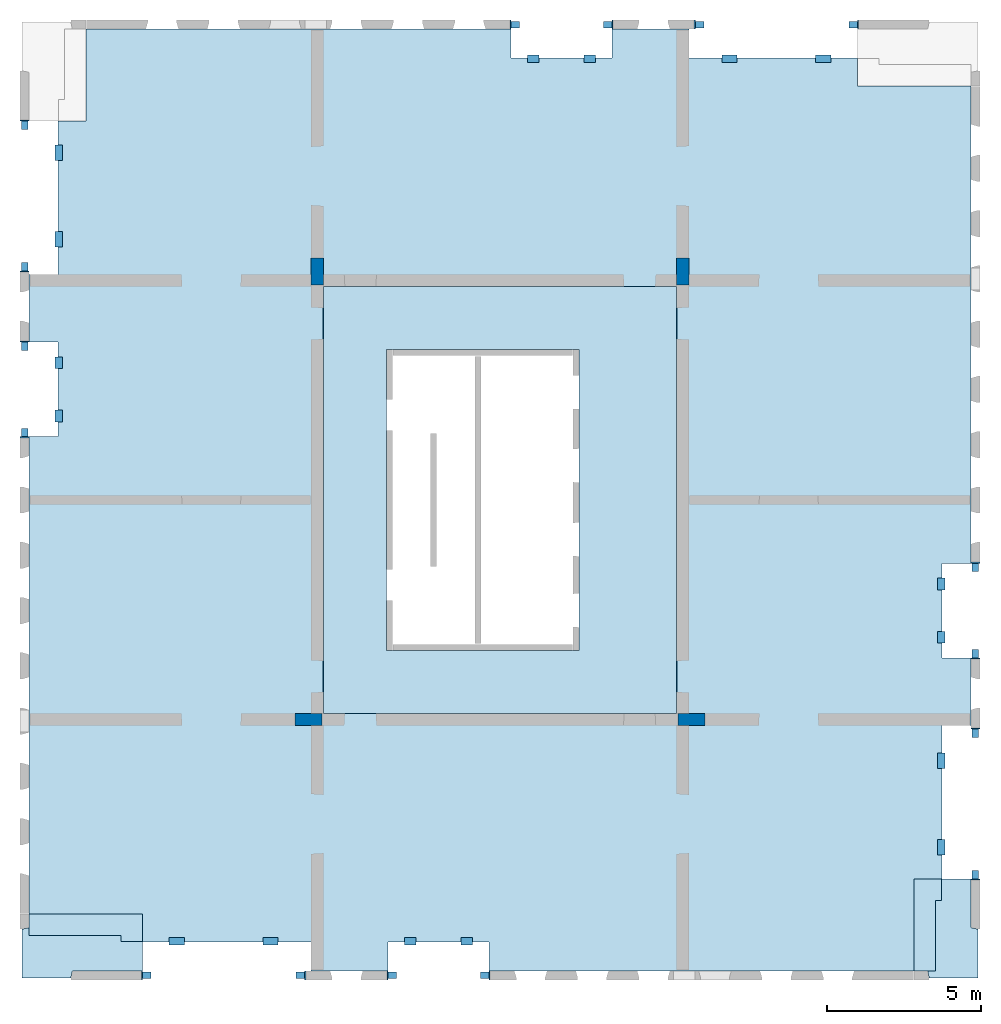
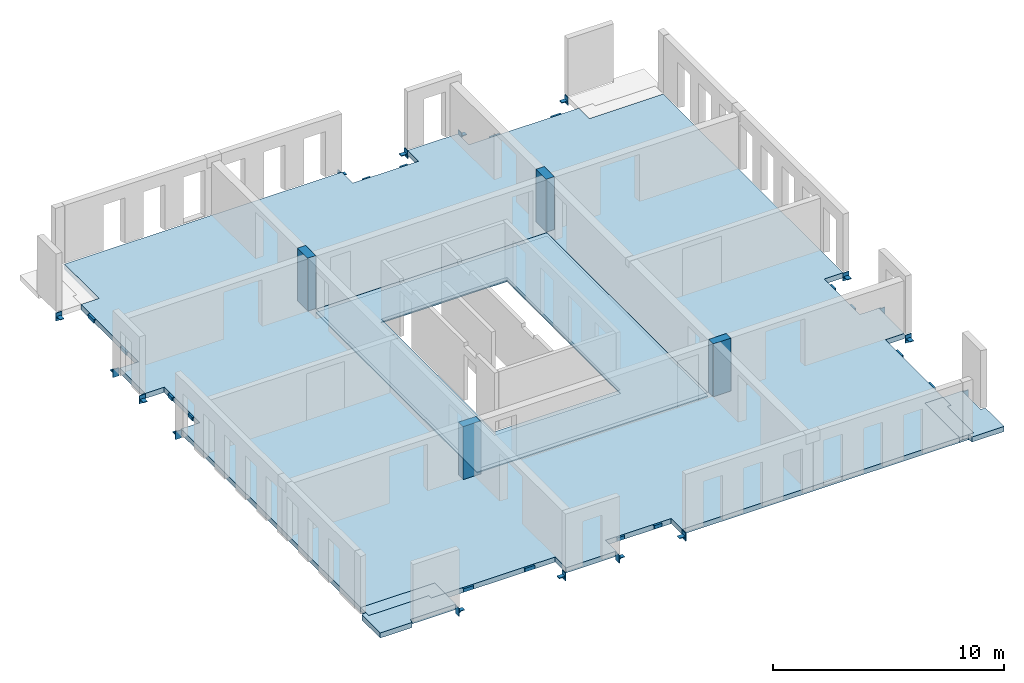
# One storey, part 1 of 4: 32 beams, 7 slabs, 4 columns, 3 openings.
"""IFC2X3 building model written with IfcOpenShell, lengths in millimetres."""

from ifc_helpers import new_model, entity, si_unit, converted_unit, derived_unit, direction, frame, frame_2d, origin, origin_2d_with_axis, place, context, subcontext, project, spatial, polyline, rectangle, outline, extrude, source, transform, mapped, material, layer, layer_set, layer_usage, type_object, type_shapes, element, save


model = new_model("IFC2X3")

# Units and contexts
model_context = context("Model", 3, precision=0.01, world=origin(), true_north=direction((6.12303176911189e-17, 1.0)))
body_context = subcontext(model_context, "Body", "Model", "MODEL_VIEW")
ifc_project = project(units=[si_unit("LENGTHUNIT", "METRE", prefix="MILLI"), si_unit("AREAUNIT", "SQUARE_METRE"), si_unit("VOLUMEUNIT", "CUBIC_METRE"), converted_unit("PLANEANGLEUNIT", "DEGREE", entity("IfcRatioMeasure", 0.0174532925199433), si_unit("PLANEANGLEUNIT", "RADIAN"), dimensions=[0, 0, 0, 0, 0, 0, 0]), si_unit("MASSUNIT", "GRAM", prefix="KILO"), derived_unit("MASSDENSITYUNIT", [(si_unit("MASSUNIT", "GRAM", prefix="KILO"), 1), (si_unit("LENGTHUNIT", "METRE"), -3)]), si_unit("TIMEUNIT", "SECOND"), si_unit("FREQUENCYUNIT", "HERTZ"), si_unit("THERMODYNAMICTEMPERATUREUNIT", "DEGREE_CELSIUS"), derived_unit("THERMALTRANSMITTANCEUNIT", [(si_unit("MASSUNIT", "GRAM", prefix="KILO"), 1), (si_unit("THERMODYNAMICTEMPERATUREUNIT", "KELVIN"), -1), (si_unit("TIMEUNIT", "SECOND"), -3)]), derived_unit("VOLUMETRICFLOWRATEUNIT", [(si_unit("LENGTHUNIT", "METRE"), 3), (si_unit("TIMEUNIT", "SECOND"), -1)]), si_unit("ELECTRICCURRENTUNIT", "AMPERE"), si_unit("ELECTRICVOLTAGEUNIT", "VOLT"), si_unit("POWERUNIT", "WATT"), si_unit("FORCEUNIT", "NEWTON", prefix="KILO"), si_unit("ILLUMINANCEUNIT", "LUX"), si_unit("LUMINOUSFLUXUNIT", "LUMEN"), si_unit("LUMINOUSINTENSITYUNIT", "CANDELA"), derived_unit("USERDEFINED", [(si_unit("MASSUNIT", "GRAM", prefix="KILO"), -1), (si_unit("LENGTHUNIT", "METRE"), -2), (si_unit("TIMEUNIT", "SECOND"), 3), (si_unit("LUMINOUSFLUXUNIT", "LUMEN"), 1)]), derived_unit("LINEARVELOCITYUNIT", [(si_unit("LENGTHUNIT", "METRE"), 1), (si_unit("TIMEUNIT", "SECOND"), -1)]), si_unit("PRESSUREUNIT", "PASCAL"), derived_unit("USERDEFINED", [(si_unit("LENGTHUNIT", "METRE"), -2), (si_unit("MASSUNIT", "GRAM", prefix="KILO"), 1), (si_unit("TIMEUNIT", "SECOND"), -2)])], contexts=[model_context])

# Site, building, storey
site_placement = place(None, origin())
site = spatial("IfcSite", under=ifc_project, at=site_placement, Name="Default", CompositionType="ELEMENT")
building_placement = place(site_placement, origin())
building = spatial("IfcBuilding", under=site, at=building_placement, Name="niet gebruiken", CompositionType="ELEMENT")
storey_placement = place(building_placement, frame((0.0, 0.0, 76140.0)))
storey = spatial("IfcBuildingStorey", under=building, at=storey_placement, Name="24 vierentwintigste verdieping", CompositionType="ELEMENT", Elevation=76140.0000000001)

# Columns
ifc_material_1 = material(Name="NLRS_f2_beton ihwg")
column_type_1 = type_object("IfcColumnType", Name="400x880", PredefinedType="COLUMN", material=ifc_material_1)
shared_shape_1 = source(origin(), body_context, "Body", "SweptSolid", [
    extrude(rectangle(XDim=879.999999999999, YDim=399.999999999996, at=origin_2d_with_axis()), frame((135800.0, 24940.0, 76050.0), z_axis=(0.0, 0.0, 1.0), x_axis=(0.0, -1.0, 0.0)), (0.0, 0.0, 1.0), 2789.99999999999),
])
type_shapes(column_type_1, [shared_shape_1])
column_1_placement = place(storey_placement, frame((0.0, 0.0, -76140.0)))
element("IfcColumn", 1, at=column_1_placement, inside=storey, type_object=column_type_1, material=ifc_material_1, Name="NLRS_28.11_SCO_TLB_beton kolom ihwg_gen:400x880", ObjectType="400x880", context=body_context, shape_type="MappedRepresentation", body=[
    mapped(shared_shape_1, transform((0.0, 0.0, 0.0), scale=1.0)),
])
column_type_2 = type_object("IfcColumnType", Name="400x880", PredefinedType="COLUMN", material=ifc_material_1)
shared_shape_2 = source(origin(), body_context, "Body", "SweptSolid", [
    extrude(rectangle(XDim=879.999999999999, YDim=399.999999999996, at=origin_2d_with_axis()), frame((147700.0, 24940.0, 76050.0), z_axis=(0.0, 0.0, 1.0), x_axis=(0.0, -1.0, 0.0)), (0.0, 0.0, 1.0), 2789.99999999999),
])
type_shapes(column_type_2, [shared_shape_2])
column_2_placement = place(storey_placement, frame((0.0, 0.0, -76140.0)))
element("IfcColumn", 2, at=column_2_placement, inside=storey, type_object=column_type_2, material=ifc_material_1, Name="NLRS_28.11_SCO_TLB_beton kolom ihwg_gen:400x880", ObjectType="400x880", context=body_context, shape_type="MappedRepresentation", body=[
    mapped(shared_shape_2, transform((0.0, 0.0, 0.0), scale=1.0)),
])
column_type_3 = type_object("IfcColumnType", Name="400x880", PredefinedType="COLUMN", material=ifc_material_1)
shared_shape_3 = source(origin(), body_context, "Body", "SweptSolid", [
    extrude(rectangle(XDim=400.000000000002, YDim=880.000000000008, at=origin_2d_with_axis()), frame((135510.003540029, 10350.0, 76050.0), z_axis=(0.0, 0.0, 1.0), x_axis=(0.0, -1.0, 0.0)), (0.0, 0.0, 1.0), 2789.99999999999),
])
type_shapes(column_type_3, [shared_shape_3])
column_3_placement = place(storey_placement, frame((0.0, 0.0, -76140.0)))
element("IfcColumn", 3, at=column_3_placement, inside=storey, type_object=column_type_3, material=ifc_material_1, Name="NLRS_28.11_SCO_TLB_beton kolom ihwg_gen:400x880", ObjectType="400x880", context=body_context, shape_type="MappedRepresentation", body=[
    mapped(shared_shape_3, transform((0.0, 0.0, 0.0), scale=1.0)),
])
column_type_4 = type_object("IfcColumnType", Name="400x880", PredefinedType="COLUMN", material=ifc_material_1)
shared_shape_4 = source(origin(), body_context, "Body", "SweptSolid", [
    extrude(rectangle(XDim=400.000000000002, YDim=880.000000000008, at=origin_2d_with_axis()), frame((147990.0, 10350.0, 76050.0), z_axis=(0.0, 0.0, 1.0), x_axis=(0.0, -1.0, 0.0)), (0.0, 0.0, 1.0), 2789.99999999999),
])
type_shapes(column_type_4, [shared_shape_4])
column_4_placement = place(storey_placement, frame((0.0, 0.0, -76140.0)))
element("IfcColumn", 4, at=column_4_placement, inside=storey, type_object=column_type_4, material=ifc_material_1, Name="NLRS_28.11_SCO_TLB_beton kolom ihwg_gen:400x880", ObjectType="400x880", context=body_context, shape_type="MappedRepresentation", body=[
    mapped(shared_shape_4, transform((0.0, 0.0, 0.0), scale=1.0)),
])

# Beams
ifc_material_2 = material(Name="NLRS_h2_staal")
beam_type_1 = type_object("IfcBeamType", Name="NLRS_28.11_SF_WPB_stalen schoen 4_gen", PredefinedType="BEAM", material=ifc_material_2)
shared_shape_5 = source(origin(), body_context, "Body", "SweptSolid", [
    extrude(outline(polyline([(-69.4999999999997, -23.0), (8.49999999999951, -23.0), (30.5, -1.0), (30.5000000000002, 47.0), (-69.4999999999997, -23.0)])), frame((-105.0, -109.499999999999, -58.0), z_axis=(1.0, 0.0, 0.0), x_axis=(0.0, -1.0, 0.0)), (0.0, 0.0, 1.0), 35.0),
    extrude(outline(polyline([(-69.4999999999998, -23.0), (8.49999999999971, -23.0), (30.5, -1.0), (30.5000000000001, 47.0), (-69.4999999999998, -23.0)])), frame((70.0, -109.499999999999, -58.0), z_axis=(1.0, 0.0, 0.0), x_axis=(0.0, -1.0, 0.0)), (0.0, 0.0, 1.0), 35.0),
    extrude(rectangle(XDim=300.0, YDim=34.9999999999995, at=origin_2d_with_axis()), frame((0.0, -157.5, -230.0), z_axis=(0.0, 0.0, 1.0), x_axis=(-1.0, 0.0, 0.0)), (0.0, 0.0, 1.0), 420.0),
    extrude(rectangle(XDim=210.000000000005, YDim=274.999999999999, at=origin_2d_with_axis()), frame((0.0, -2.4999999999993, -35.0), z_axis=(0.0, 0.0, 1.0), x_axis=(-1.0, 0.0, 0.0)), (0.0, 0.0, 1.0), 35.0),
])
type_shapes(beam_type_1, [shared_shape_5])
beam_1_placement = place(storey_placement, frame((157230.0, 12500.0, -310.0)))
element("IfcBeam", 5, at=beam_1_placement, inside=storey, type_object=beam_type_1, material=ifc_material_2, Name="NLRS_28.11_SF_WPB_stalen schoen 4_gen:NLRS_28.11_SF_WPB_stalen schoen 4_gen", ObjectType="NLRS_28.11_SF_WPB_stalen schoen 4_gen", context=body_context, shape_type="MappedRepresentation", body=[
    mapped(shared_shape_5, transform((0.0, 0.0, 0.0), scale=1.0)),
])
for number, where, z_axis, x_axis, name in (
    (6, (157230.0, 15300.0, -310.0), (0.0, 0.0, 1.0), (-1.0, 0.0, 0.0), "NLRS_28.11_SF_WPB_stalen schoen 4_gen:NLRS_28.11_SF_WPB_stalen schoen 4_gen"),
    (7, (126270.0, 22500.0, -310.0), (0.0, 0.0, 1.0), (-1.0, 0.0, 0.0), "NLRS_28.11_SF_WPB_stalen schoen 4_gen:NLRS_28.11_SF_WPB_stalen schoen 4_gen"),
):
    element("IfcBeam", number, at=place(storey_placement, frame(where, z_axis=z_axis, x_axis=x_axis)), inside=storey, type_object=beam_type_1, material=ifc_material_2, Name=name, ObjectType="NLRS_28.11_SF_WPB_stalen schoen 4_gen", context=body_context, shape_type="MappedRepresentation", body=[
        mapped(shared_shape_5, transform((0.0, 0.0, 0.0), scale=1.0)),
    ])
beam_2_placement = place(storey_placement, frame((126270.0, 19700.0, -310.0)))
element("IfcBeam", 8, at=beam_2_placement, inside=storey, type_object=beam_type_1, material=ifc_material_2, Name="NLRS_28.11_SF_WPB_stalen schoen 4_gen:NLRS_28.11_SF_WPB_stalen schoen 4_gen", ObjectType="NLRS_28.11_SF_WPB_stalen schoen 4_gen", context=body_context, shape_type="MappedRepresentation", body=[
    mapped(shared_shape_5, transform((0.0, 0.0, 0.0), scale=1.0)),
])
for number, where, z_axis, x_axis, name in (
    (9, (138250.0, 2020.0, -310.0), (0.0, 0.0, 1.0), (0.0, -1.0, 0.0), "NLRS_28.11_SF_WPB_stalen schoen 4_gen:NLRS_28.11_SF_WPB_stalen schoen 4_gen"),
    (10, (141250.0, 2020.0, -310.0), (0.0, 0.0, 1.0), (0.0, 1.0, 0.0), "NLRS_28.11_SF_WPB_stalen schoen 4_gen:NLRS_28.11_SF_WPB_stalen schoen 4_gen"),
    (11, (145250.0, 32980.0, -310.0), (0.0, 0.0, 1.0), (0.0, 1.0, 0.0), "NLRS_28.11_SF_WPB_stalen schoen 4_gen:NLRS_28.11_SF_WPB_stalen schoen 4_gen"),
    (12, (142250.0, 32980.0, -310.0), (0.0, 0.0, 1.0), (0.0, -1.0, 0.0), "NLRS_28.11_SF_WPB_stalen schoen 4_gen:NLRS_28.11_SF_WPB_stalen schoen 4_gen"),
):
    element("IfcBeam", number, at=place(storey_placement, frame(where, z_axis=z_axis, x_axis=x_axis)), inside=storey, type_object=beam_type_1, material=ifc_material_2, Name=name, ObjectType="NLRS_28.11_SF_WPB_stalen schoen 4_gen", context=body_context, shape_type="MappedRepresentation", body=[
        mapped(shared_shape_5, transform((0.0, 0.0, 0.0), scale=1.0)),
    ])
beam_type_2 = type_object("IfcBeamType", Name="NLRS_28.11_SF_WPB_stalen schoen 3_gen", PredefinedType="BEAM", material=ifc_material_2)
shared_shape_6 = source(origin(), body_context, "Body", "SweptSolid", [
    extrude(outline(polyline([(-69.4999999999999, -23.0), (8.49999999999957, -23.0), (30.5000000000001, -1.0), (30.5000000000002, 47.0), (-69.4999999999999, -23.0)])), frame((-105.0, -109.499999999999, -63.0), z_axis=(1.0, 0.0, 0.0), x_axis=(0.0, -1.0, 0.0)), (0.0, 0.0, 1.0), 40.0),
    extrude(outline(polyline([(-69.4999999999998, -23.0), (8.49999999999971, -23.0), (30.5, -1.0), (30.5000000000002, 47.0), (-69.4999999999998, -23.0)])), frame((65.0, -109.499999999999, -63.0), z_axis=(1.0, 0.0, 0.0), x_axis=(0.0, -1.0, 0.0)), (0.0, 0.0, 1.0), 40.0),
    extrude(rectangle(XDim=300.0, YDim=39.9999999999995, at=origin_2d_with_axis()), frame((0.0, -160.0, -230.0), z_axis=(0.0, 0.0, 1.0), x_axis=(-1.0, 0.0, 0.0)), (0.0, 0.0, 1.0), 420.0),
    extrude(rectangle(XDim=210.000000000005, YDim=274.999999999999, at=origin_2d_with_axis()), frame((0.0, -2.49999999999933, -40.0), z_axis=(0.0, 0.0, 1.0), x_axis=(-1.0, 0.0, 0.0)), (0.0, 0.0, 1.0), 39.9999999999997),
])
type_shapes(beam_type_2, [shared_shape_6])
beam_3_placement = place(storey_placement, frame((157230.0, 9900.0, -310.0), z_axis=(0.0, 0.0, 1.0), x_axis=(-1.0, 0.0, 0.0)))
element("IfcBeam", 13, at=beam_3_placement, inside=storey, type_object=beam_type_2, material=ifc_material_2, Name="NLRS_28.11_SF_WPB_stalen schoen 3_gen:NLRS_28.11_SF_WPB_stalen schoen 3_gen", ObjectType="NLRS_28.11_SF_WPB_stalen schoen 3_gen", context=body_context, shape_type="MappedRepresentation", body=[
    mapped(shared_shape_6, transform((0.0, 0.0, 0.0), scale=1.0)),
])
for number, where, name in (
    (14, (157230.0, 5300.0, -310.0), "NLRS_28.11_SF_WPB_stalen schoen 3_gen:NLRS_28.11_SF_WPB_stalen schoen 3_gen"),
    (15, (126270.0, 25100.0, -310.0), "NLRS_28.11_SF_WPB_stalen schoen 3_gen:NLRS_28.11_SF_WPB_stalen schoen 3_gen"),
):
    element("IfcBeam", number, at=place(storey_placement, frame(where)), inside=storey, type_object=beam_type_2, material=ifc_material_2, Name=name, ObjectType="NLRS_28.11_SF_WPB_stalen schoen 3_gen", context=body_context, shape_type="MappedRepresentation", body=[
        mapped(shared_shape_6, transform((0.0, 0.0, 0.0), scale=1.0)),
    ])
for number, where, z_axis, x_axis, name in (
    (16, (126270.0, 29700.0, -310.0), (0.0, 0.0, 1.0), (-1.0, 0.0, 0.0), "NLRS_28.11_SF_WPB_stalen schoen 3_gen:NLRS_28.11_SF_WPB_stalen schoen 3_gen"),
    (17, (135250.0, 2020.0, -310.0), (0.0, 0.0, 1.0), (0.0, 1.0, 0.0), "NLRS_28.11_SF_WPB_stalen schoen 3_gen:NLRS_28.11_SF_WPB_stalen schoen 3_gen"),
    (18, (130250.0, 2020.0, -310.0), (0.0, 0.0, 1.0), (0.0, -1.0, 0.0), "NLRS_28.11_SF_WPB_stalen schoen 3_gen:NLRS_28.11_SF_WPB_stalen schoen 3_gen"),
    (19, (148250.0, 32980.0, -310.0), (0.0, 0.0, 1.0), (0.0, -1.0, 0.0), "NLRS_28.11_SF_WPB_stalen schoen 3_gen:NLRS_28.11_SF_WPB_stalen schoen 3_gen"),
    (20, (153250.0, 32980.0, -310.0), (0.0, 0.0, 1.0), (0.0, 1.0, 0.0), "NLRS_28.11_SF_WPB_stalen schoen 3_gen:NLRS_28.11_SF_WPB_stalen schoen 3_gen"),
):
    element("IfcBeam", number, at=place(storey_placement, frame(where, z_axis=z_axis, x_axis=x_axis)), inside=storey, type_object=beam_type_2, material=ifc_material_2, Name=name, ObjectType="NLRS_28.11_SF_WPB_stalen schoen 3_gen", context=body_context, shape_type="MappedRepresentation", body=[
        mapped(shared_shape_6, transform((0.0, 0.0, 0.0), scale=1.0)),
    ])
beam_type_3 = type_object("IfcBeamType", Name="NLRS_28.11_SF_WPB_stalen handje 7 lang 375_gen:NLRS_28.11_SF_WPB_stalen handje 7_gen", PredefinedType="BEAM")
beam_4_placement = place(storey_placement, frame((156235.125015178, 9255.24886461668, -93.0), z_axis=(0.0, 0.0, 1.0), x_axis=(0.0, -1.0, 0.0)))
element("IfcBeam", 21, at=beam_4_placement, inside=storey, type_object=beam_type_3, material=ifc_material_2, Name="NLRS_28.11_SF_WPB_stalen handje 7 lang 375_gen:NLRS_28.11_SF_WPB_stalen handje 7_gen", ObjectType="NLRS_28.11_SF_WPB_stalen handje 7 lang 375_gen:NLRS_28.11_SF_WPB_stalen handje 7_gen", context=body_context, shape_type="SweptSolid", body=[
    extrude(outline(polyline([(-70.6666666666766, -153.33333333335), (-40.6666666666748, -153.33333333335), (-40.6666666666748, 61.6666666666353), (111.333333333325, 61.6666666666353), (111.333333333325, 91.6666666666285), (-70.6666666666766, 91.6666666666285), (-70.6666666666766, -153.33333333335)])), frame((0.0, -91.6666666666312, -70.6666666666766), z_axis=(1.0, 0.0, 0.0), x_axis=(0.0, 0.0, -1.0)), (0.0, 0.0, 1.0), 500.000000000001),
])
beam_5_placement = place(storey_placement, frame((156235.125015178, 6445.24582437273, -93.0), z_axis=(0.0, 0.0, 1.0), x_axis=(0.0, -1.0, 0.0)))
element("IfcBeam", 22, at=beam_5_placement, inside=storey, type_object=beam_type_3, material=ifc_material_2, Name="NLRS_28.11_SF_WPB_stalen handje 7 lang 375_gen:NLRS_28.11_SF_WPB_stalen handje 7_gen", ObjectType="NLRS_28.11_SF_WPB_stalen handje 7 lang 375_gen:NLRS_28.11_SF_WPB_stalen handje 7_gen", context=body_context, shape_type="SweptSolid", body=[
    extrude(outline(polyline([(-70.6666666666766, -153.33333333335), (-40.6666666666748, -153.33333333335), (-40.6666666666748, 61.6666666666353), (111.333333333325, 61.6666666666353), (111.333333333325, 91.6666666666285), (-70.6666666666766, 91.6666666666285), (-70.6666666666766, -153.33333333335)])), frame((0.0, -91.6666666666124, -70.6666666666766), z_axis=(1.0, 0.0, 0.0), x_axis=(0.0, 0.0, -1.0)), (0.0, 0.0, 1.0), 500.000000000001),
])
beam_6_placement = place(storey_placement, frame((127264.874984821, 25744.7511353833, -93.0), z_axis=(0.0, 0.0, 1.0), x_axis=(0.0, 1.0, 0.0)))
element("IfcBeam", 23, at=beam_6_placement, inside=storey, type_object=beam_type_3, material=ifc_material_2, Name="NLRS_28.11_SF_WPB_stalen handje 7 lang 375_gen:NLRS_28.11_SF_WPB_stalen handje 7_gen", ObjectType="NLRS_28.11_SF_WPB_stalen handje 7 lang 375_gen:NLRS_28.11_SF_WPB_stalen handje 7_gen", context=body_context, shape_type="SweptSolid", body=[
    extrude(outline(polyline([(-70.6666666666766, -153.333333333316), (-40.6666666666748, -153.333333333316), (-40.6666666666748, 61.6666666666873), (111.333333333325, 61.66666666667), (111.333333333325, 91.6666666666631), (-70.6666666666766, 91.6666666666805), (-70.6666666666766, -153.333333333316)])), frame((0.0, -91.6666666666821, -70.6666666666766), z_axis=(1.0, 0.0, 0.0), x_axis=(0.0, 0.0, -1.0)), (0.0, 0.0, 1.0), 500.000000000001),
])
beam_7_placement = place(storey_placement, frame((127264.874984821, 28554.7541756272, -93.0), z_axis=(0.0, 0.0, 1.0), x_axis=(0.0, 1.0, 0.0)))
element("IfcBeam", 24, at=beam_7_placement, inside=storey, type_object=beam_type_3, material=ifc_material_2, Name="NLRS_28.11_SF_WPB_stalen handje 7 lang 375_gen:NLRS_28.11_SF_WPB_stalen handje 7_gen", ObjectType="NLRS_28.11_SF_WPB_stalen handje 7 lang 375_gen:NLRS_28.11_SF_WPB_stalen handje 7_gen", context=body_context, shape_type="SweptSolid", body=[
    extrude(outline(polyline([(-70.6666666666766, -153.333333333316), (-40.6666666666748, -153.333333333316), (-40.6666666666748, 61.6666666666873), (111.333333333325, 61.66666666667), (111.333333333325, 91.6666666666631), (-70.6666666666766, 91.6666666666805), (-70.6666666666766, -153.333333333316)])), frame((0.0, -91.66666666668, -70.6666666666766), z_axis=(1.0, 0.0, 0.0), x_axis=(0.0, 0.0, -1.0)), (0.0, 0.0, 1.0), 500.000000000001),
])
for number, where, z_axis, x_axis, name in (
    (25, (140862.631597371, 3015.23611279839, -93.0), (0.0, 0.0, 1.0), (-1.0, 0.0, 0.0), "NLRS_28.11_SF_WPB_stalen handje 7 lang 375_gen:NLRS_28.11_SF_WPB_stalen handje 7_gen"),
    (26, (139012.628555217, 3015.23611279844, -93.0), (0.0, 0.0, 1.0), (-1.0, 0.0, 0.0), "NLRS_28.11_SF_WPB_stalen handje 7 lang 375_gen:NLRS_28.11_SF_WPB_stalen handje 7_gen"),
):
    element("IfcBeam", number, at=place(storey_placement, frame(where, z_axis=z_axis, x_axis=x_axis)), inside=storey, type_object=beam_type_3, material=ifc_material_2, Name=name, ObjectType="NLRS_28.11_SF_WPB_stalen handje 7 lang 375_gen:NLRS_28.11_SF_WPB_stalen handje 7_gen", context=body_context, shape_type="SweptSolid", body=[
        extrude(outline(polyline([(-70.6666666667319, -153.333333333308), (-40.6666666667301, -153.333333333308), (-40.6666666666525, 61.6666666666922), (111.333333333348, 61.6666666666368), (111.333333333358, 91.6666666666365), (-70.6666666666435, 91.6666666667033), (-70.6666666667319, -153.333333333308)])), frame((0.0, -91.6666666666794, -70.6666666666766), z_axis=(1.0, 0.0, 0.0), x_axis=(0.0, 0.0, -1.0)), (0.0, 0.0, 1.0), 375.000000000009),
    ])
for number, where, z_axis, x_axis, name in (
    (27, (134525.131597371, 3015.23611279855, -93.0), (0.0, 0.0, 1.0), (-1.0, 0.0, 0.0), "NLRS_28.11_SF_WPB_stalen handje 7 lang 375_gen:NLRS_28.11_SF_WPB_stalen handje 7_gen"),
    (28, (131475.128555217, 3015.23611279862, -93.0), (0.0, 0.0, 1.0), (-1.0, 0.0, 0.0), "NLRS_28.11_SF_WPB_stalen handje 7 lang 375_gen:NLRS_28.11_SF_WPB_stalen handje 7_gen"),
):
    element("IfcBeam", number, at=place(storey_placement, frame(where, z_axis=z_axis, x_axis=x_axis)), inside=storey, type_object=beam_type_3, material=ifc_material_2, Name=name, ObjectType="NLRS_28.11_SF_WPB_stalen handje 7 lang 375_gen:NLRS_28.11_SF_WPB_stalen handje 7_gen", context=body_context, shape_type="SweptSolid", body=[
        extrude(outline(polyline([(-70.6666666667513, -153.333333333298), (-40.6666666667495, -153.333333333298), (-40.6666666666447, 61.6666666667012), (111.333333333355, 61.6666666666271), (111.33333333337, 91.6666666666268), (-70.6666666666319, 91.666666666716), (-70.6666666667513, -153.333333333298)])), frame((0.0, -91.6666666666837, -70.6666666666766), z_axis=(1.0, 0.0, 0.0), x_axis=(0.0, 0.0, -1.0)), (0.0, 0.0, 1.0), 500.000000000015),
    ])
for number, where, name in (
    (29, (142637.368402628, 31984.7638872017, -93.0), "NLRS_28.11_SF_WPB_stalen handje 7 lang 375_gen:NLRS_28.11_SF_WPB_stalen handje 7_gen"),
    (30, (144487.371444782, 31984.7638872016, -93.0), "NLRS_28.11_SF_WPB_stalen handje 7 lang 375_gen:NLRS_28.11_SF_WPB_stalen handje 7_gen"),
):
    element("IfcBeam", number, at=place(storey_placement, frame(where)), inside=storey, type_object=beam_type_3, material=ifc_material_2, Name=name, ObjectType="NLRS_28.11_SF_WPB_stalen handje 7 lang 375_gen:NLRS_28.11_SF_WPB_stalen handje 7_gen", context=body_context, shape_type="SweptSolid", body=[
        extrude(outline(polyline([(-70.6666666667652, -153.333333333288), (-40.6666666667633, -153.333333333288), (-40.6666666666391, 61.6666666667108), (111.333333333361, 61.666666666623), (111.333333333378, 91.6666666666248), (-70.6666666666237, 91.6666666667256), (-70.6666666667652, -153.333333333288)])), frame((0.0, -91.6666666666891, -70.6666666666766), z_axis=(1.0, 0.0, 0.0), x_axis=(0.0, 0.0, -1.0)), (0.0, 0.0, 1.0), 375.000000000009),
    ])
for number, where, name in (
    (31, (148974.868402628, 31984.7638872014, -93.0), "NLRS_28.11_SF_WPB_stalen handje 7 lang 375_gen:NLRS_28.11_SF_WPB_stalen handje 7_gen"),
    (32, (152024.871444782, 31984.7638872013, -93.0), "NLRS_28.11_SF_WPB_stalen handje 7 lang 375_gen:NLRS_28.11_SF_WPB_stalen handje 7_gen"),
):
    element("IfcBeam", number, at=place(storey_placement, frame(where)), inside=storey, type_object=beam_type_3, material=ifc_material_2, Name=name, ObjectType="NLRS_28.11_SF_WPB_stalen handje 7 lang 375_gen:NLRS_28.11_SF_WPB_stalen handje 7_gen", context=body_context, shape_type="SweptSolid", body=[
        extrude(outline(polyline([(-70.6666666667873, -153.333333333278), (-40.6666666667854, -153.333333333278), (-40.6666666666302, 61.6666666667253), (111.33333333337, 61.6666666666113), (111.333333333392, 91.6666666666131), (-70.6666666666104, 91.6666666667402), (-70.6666666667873, -153.333333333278)])), frame((0.0, -91.6666666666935, -70.6666666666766), z_axis=(1.0, 0.0, 0.0), x_axis=(0.0, 0.0, -1.0)), (0.0, 0.0, 1.0), 500.000000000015),
    ])
beam_8_placement = place(storey_placement, frame((156235.0, 14952.5097115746, -93.0), z_axis=(0.0, 0.0, 1.0), x_axis=(0.0, -1.0, 0.0)))
element("IfcBeam", 33, at=beam_8_placement, inside=storey, type_object=beam_type_3, material=ifc_material_2, Name="NLRS_28.11_SF_WPB_stalen handje 7 lang 375_gen:NLRS_28.11_SF_WPB_stalen handje 7_gen", ObjectType="NLRS_28.11_SF_WPB_stalen handje 7 lang 375_gen:NLRS_28.11_SF_WPB_stalen handje 7_gen", context=body_context, shape_type="SweptSolid", body=[
    extrude(outline(polyline([(-70.6666666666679, -153.333333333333), (-40.6666666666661, -153.333333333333), (-40.6666666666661, 61.66666666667), (111.333333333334, 61.66666666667), (111.333333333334, 91.6666666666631), (-70.6666666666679, 91.6666666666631), (-70.6666666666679, -153.333333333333)])), frame((0.0, -91.6666666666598, -70.6666666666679), z_axis=(1.0, 0.0, 0.0), x_axis=(0.0, 0.0, -1.0)), (0.0, 0.0, 1.0), 375.000000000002),
])
beam_9_placement = place(storey_placement, frame((156235.0, 13222.5097115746, -93.0), z_axis=(0.0, 0.0, 1.0), x_axis=(0.0, -1.0, 0.0)))
element("IfcBeam", 34, at=beam_9_placement, inside=storey, type_object=beam_type_3, material=ifc_material_2, Name="NLRS_28.11_SF_WPB_stalen handje 7 lang 375_gen:NLRS_28.11_SF_WPB_stalen handje 7_gen", ObjectType="NLRS_28.11_SF_WPB_stalen handje 7 lang 375_gen:NLRS_28.11_SF_WPB_stalen handje 7_gen", context=body_context, shape_type="SweptSolid", body=[
    extrude(outline(polyline([(-70.6666666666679, -153.333333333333), (-40.6666666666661, -153.333333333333), (-40.6666666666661, 61.66666666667), (111.333333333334, 61.66666666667), (111.333333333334, 91.6666666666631), (-70.6666666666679, 91.6666666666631), (-70.6666666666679, -153.333333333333)])), frame((0.0, -91.6666666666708, -70.6666666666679), z_axis=(1.0, 0.0, 0.0), x_axis=(0.0, 0.0, -1.0)), (0.0, 0.0, 1.0), 375.000000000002),
])
beam_10_placement = place(storey_placement, frame((127265.0, 20047.4902884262, -93.0), z_axis=(0.0, 0.0, 1.0), x_axis=(0.0, 1.0, 0.0)))
element("IfcBeam", 35, at=beam_10_placement, inside=storey, type_object=beam_type_3, material=ifc_material_2, Name="NLRS_28.11_SF_WPB_stalen handje 7 lang 375_gen:NLRS_28.11_SF_WPB_stalen handje 7_gen", ObjectType="NLRS_28.11_SF_WPB_stalen handje 7 lang 375_gen:NLRS_28.11_SF_WPB_stalen handje 7_gen", context=body_context, shape_type="SweptSolid", body=[
    extrude(outline(polyline([(-70.6666666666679, -153.333333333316), (-40.6666666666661, -153.333333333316), (-40.6666666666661, 61.6666666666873), (111.333333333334, 61.66666666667), (111.333333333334, 91.6666666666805), (-70.6666666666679, 91.6666666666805), (-70.6666666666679, -153.333333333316)])), frame((0.0, -91.6666666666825, -70.6666666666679), z_axis=(1.0, 0.0, 0.0), x_axis=(0.0, 0.0, -1.0)), (0.0, 0.0, 1.0), 375.000000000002),
])
beam_11_placement = place(storey_placement, frame((127265.0, 21777.4902884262, -93.0), z_axis=(0.0, 0.0, 1.0), x_axis=(0.0, 1.0, 0.0)))
element("IfcBeam", 36, at=beam_11_placement, inside=storey, type_object=beam_type_3, material=ifc_material_2, Name="NLRS_28.11_SF_WPB_stalen handje 7 lang 375_gen:NLRS_28.11_SF_WPB_stalen handje 7_gen", ObjectType="NLRS_28.11_SF_WPB_stalen handje 7 lang 375_gen:NLRS_28.11_SF_WPB_stalen handje 7_gen", context=body_context, shape_type="SweptSolid", body=[
    extrude(outline(polyline([(-70.6666666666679, -153.33333333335), (-40.6666666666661, -153.33333333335), (-40.6666666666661, 61.6666666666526), (111.333333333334, 61.6666666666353), (111.333333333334, 91.6666666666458), (-70.6666666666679, 91.6666666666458), (-70.6666666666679, -153.33333333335)])), frame((0.0, -91.6666666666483, -70.6666666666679), z_axis=(1.0, 0.0, 0.0), x_axis=(0.0, 0.0, -1.0)), (0.0, 0.0, 1.0), 375.000000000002),
])

# Slabs
ifc_material_3 = material(Name="NLRS_f2_beton prefab")
ifc_layer_1 = layer(ifc_material_3, 270.0)
ifc_layer_set_1 = layer_set([ifc_layer_1], Name="Floor:NLRS_23.22_FL_beton prefab d=270 3D element_gen")
ifc_layer_usage_1 = layer_usage(ifc_layer_set_1, "AXIS3", "POSITIVE", 0.0)
slab_1_placement = place(storey_placement, origin())
element("IfcSlab", 37, at=slab_1_placement, inside=storey, material=ifc_layer_usage_1, Name="Floor:NLRS_23.22_FL_beton prefab d=270 3D element_gen", ObjectType="Floor:NLRS_23.22_FL_beton prefab d=270 3D element_gen", PredefinedType="LANDING", context=body_context, shape_type="SweptSolid", body=[
    extrude(outline(polyline([(-1034.47139498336, -1100.52860501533), (1955.52860501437, -1100.52860501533), (1955.52860501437, 749.471394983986), (370.152429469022, 749.471394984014), (322.675940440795, 982.471394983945), (-1267.47139498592, 982.471394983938), (-1267.47139498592, -607.675940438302), (-1034.47139498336, -655.152429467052), (-1034.47139498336, -1100.52860501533)])), frame((156330.528605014, 3204.47139498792, -90.0), z_axis=(0.0, 0.0, -1.0), x_axis=(0.0, 1.0, 0.0)), (0.0, 0.0, 1.0), 269.999999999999),
])
ifc_layer_2 = layer(ifc_material_1, 170.0)
ifc_layer_set_2 = layer_set([ifc_layer_2], Name="Floor:NLRS_23.21_FL_beton ihwg d=170_gen")
ifc_layer_usage_2 = layer_usage(ifc_layer_set_2, "AXIS3", "POSITIVE", 0.0)
slab_2_placement = place(storey_placement, origin())
element("IfcSlab", 38, at=slab_2_placement, inside=storey, material=ifc_layer_usage_2, Name="Floor:NLRS_23.21_FL_beton ihwg d=170_gen", ObjectType="Floor:NLRS_23.21_FL_beton ihwg d=170_gen", PredefinedType="FLOOR", context=body_context, shape_type="SweptSolid", body=[
    extrude(outline(polyline([(-1760.0, -533.33333333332), (1230.0, -533.33333333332), (1230.0, 366.666666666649), (530.0, 366.666666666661), (530.0, 166.666666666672), (-1760.0, 166.666666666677), (-1760.0, -533.33333333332)])), frame((155763.333333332, 3930.0, -90.0), z_axis=(0.0, 0.0, -1.0), x_axis=(0.0, 1.0, 0.0)), (0.0, 0.0, 1.0), 169.999999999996),
])
ifc_layer_usage_3 = layer_usage(ifc_layer_set_1, "AXIS3", "POSITIVE", 0.0)
slab_3_placement = place(storey_placement, origin())
element("IfcSlab", 39, at=slab_3_placement, inside=storey, material=ifc_layer_usage_3, Name="Floor:NLRS_23.22_FL_beton prefab d=270 3D element_gen", ObjectType="Floor:NLRS_23.22_FL_beton prefab d=270 3D element_gen", PredefinedType="LANDING", context=body_context, shape_type="SweptSolid", body=[
    extrude(outline(polyline([(-982.471394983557, -1442.47139498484), (607.67594043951, -1442.47139498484), (655.152429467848, -1209.47139498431), (1100.52860501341, -1209.47139498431), (1100.52860501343, 2480.5286050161), (-749.471394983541, 2480.5286050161), (-749.471394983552, 195.15242946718), (-982.47139498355, 147.675940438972), (-982.471394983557, -1442.47139498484)])), frame((127629.471394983, 2919.47139499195, -90.0), z_axis=(0.0, 0.0, -1.0), x_axis=(0.0, 1.0, 0.0)), (0.0, 0.0, 1.0), 269.999999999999),
])
ifc_layer_usage_4 = layer_usage(ifc_layer_set_2, "AXIS3", "POSITIVE", 0.0)
slab_4_placement = place(storey_placement, origin())
element("IfcSlab", 40, at=slab_4_placement, inside=storey, material=ifc_layer_usage_4, Name="Floor:NLRS_23.21_FL_beton ihwg d=170_gen", ObjectType="Floor:NLRS_23.21_FL_beton ihwg d=170_gen", PredefinedType="FLOOR", context=body_context, shape_type="SweptSolid", body=[
    extrude(outline(polyline([(-166.666666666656, -2226.66666666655), (533.333333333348, -2226.66666666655), (533.333333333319, 1463.33333333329), (-366.666666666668, 1463.33333333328), (-366.666666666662, 763.333333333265), (-166.666666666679, 763.333333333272), (-166.666666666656, -2226.66666666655)])), frame((128646.666666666, 3486.66666667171, -90.0), z_axis=(0.0, 0.0, -1.0), x_axis=(0.0, 1.0, 0.0)), (0.0, 0.0, 1.0), 169.999999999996),
])

# Slab, opening
ifc_layer_3 = layer(ifc_material_1, 230.0)
ifc_layer_set_3 = layer_set([ifc_layer_3], Name="Floor:NLRS_23.21_FL_vloer=230_gen")
ifc_layer_usage_5 = layer_usage(ifc_layer_set_3, "AXIS3", "POSITIVE", 0.0)
slab_5_placement = place(storey_placement, frame((136000.0, 10549.7638872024, -320.0)))
slab_5 = element("IfcSlab", 41, at=slab_5_placement, inside=storey, material=ifc_layer_usage_5, Name="Floor:NLRS_23.21_FL_vloer=230_gen", ObjectType="Floor:NLRS_23.21_FL_vloer=230_gen", PredefinedType="FLOOR", context=body_context, shape_type="SweptSolid", body=[
    extrude(rectangle(XDim=13900.2361127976, YDim=11500.0, at=frame_2d((0.0, 0.0), x_axis=(0.0, -1.0))), frame((5750.0, 6950.11805639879, 230.0), z_axis=(0.0, 0.0, -1.0), x_axis=(-1.0, 0.0, 0.0)), (0.0, 0.0, 1.0), 230.0),
])
opening_1_placement = place(slab_5_placement, frame((5190.0, 6950.23611279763, 230.0)))
element("IfcOpeningElement", 42, at=opening_1_placement, cuts=slab_5, Name="Floor:NLRS_23.21_FL_vloer=230_gen:2", ObjectType="Opening", context=body_context, shape_type="SweptSolid", body=[
    extrude(rectangle(XDim=9800.0, YDim=6279.99999999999, at=origin_2d_with_axis()), frame((0.0, 0.0, 0.0), z_axis=(0.0, 0.0, -1.0), x_axis=(0.0, -1.0, 0.0)), (0.0, 0.0, 1.0), 230.0),
])

ifc_layer_4 = layer(ifc_material_1, 170.0)
ifc_layer_5 = layer(ifc_material_3, 100.0)
ifc_layer_set_4 = layer_set([ifc_layer_4, ifc_layer_5], Name="Floor:NLRS_23.21_FL_breedplaat d=100/270_gen")
ifc_layer_usage_6 = layer_usage(ifc_layer_set_4, "AXIS3", "POSITIVE", 0.0)
slab_6_placement = place(storey_placement, frame((126420.0, 2170.0, -360.0)))
slab_6 = element("IfcSlab", 43, at=slab_6_placement, inside=storey, material=ifc_layer_usage_6, Name="Floor:NLRS_23.21_FL_breedplaat d=100/270_gen", ObjectType="Floor:NLRS_23.21_FL_breedplaat d=100/270_gen", PredefinedType="FLOOR", context=body_context, shape_type="SweptSolid", body=[
    extrude(outline(polyline([(-360.0, 15330.0), (-360.0, 14385.0), (-3640.0, 14385.0), (-3640.0, 15330.0), (-6150.0, 15330.0), (-6150.0, 14385.0), (-11640.0, 14385.0), (-11640.0, 13480.0), (-15330.0, 13480.0), (-15330.0, -2060.0), (-14385.0, -2060.0), (-14385.0, -5140.0), (-15330.0, -5140.0), (-15330.0, -7350.0), (-14385.0, -7350.0), (-14385.0, -12340.0), (-13480.0, -12340.0), (-13480.0, -15330.0), (360.0, -15330.0), (360.0, -14385.0), (3640.0, -14385.0), (3640.0, -15330.0), (6150.0, -15330.0), (6150.0, -14385.0), (11640.0, -14385.0), (11640.0, -13480.0), (15330.0, -13480.0), (15330.0, 2060.0), (14385.0, 2060.0), (14385.0, 5140.0), (15330.0, 5140.0), (15330.0, 7350.0), (14385.0, 7350.0), (14385.0, 12340.0), (13480.0, 12340.0), (13480.0, 15330.0), (-360.0, 15330.0)])), frame((15330.0, 15330.0, 270.0), z_axis=(0.0, 0.0, -1.0), x_axis=(-1.0, 0.0, 0.0)), (0.0, 0.0, 1.0), 269.999999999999),
])
opening_2_placement = place(slab_6_placement, frame((15330.0, 15330.0, 270.0)))
element("IfcOpeningElement", 44, at=opening_2_placement, cuts=slab_6, Name="Floor:NLRS_23.21_FL_breedplaat d=100/270_gen:2", ObjectType="Opening", context=body_context, shape_type="SweptSolid", body=[
    extrude(rectangle(XDim=13899.9999999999, YDim=11500.0, at=origin_2d_with_axis()), frame((0.0, 0.0, 0.0), z_axis=(0.0, 0.0, -1.0), x_axis=(0.0, -1.0, 0.0)), (0.0, 0.0, 1.0), 269.999999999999),
])

ifc_layer_6 = layer(ifc_material_3, 60.0)
ifc_layer_set_5 = layer_set([ifc_layer_6], Name="Floor:NLRS_23.21_FL_breedplaat d=60_gen")
ifc_layer_usage_7 = layer_usage(ifc_layer_set_5, "AXIS3", "POSITIVE", 0.0)
slab_7_placement = place(storey_placement, frame((135990.0, 10540.0, -320.0)))
slab_7 = element("IfcSlab", 45, at=slab_7_placement, inside=storey, material=ifc_layer_usage_7, Name="Floor:NLRS_23.21_FL_breedplaat d=60_gen", ObjectType="Floor:NLRS_23.21_FL_breedplaat d=60_gen", PredefinedType="FLOOR", context=body_context, shape_type="SweptSolid", body=[
    extrude(rectangle(XDim=13919.9999999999, YDim=11520.0, at=frame_2d((0.0, 0.0), x_axis=(0.0, -1.0))), frame((5760.0, 6960.0, 60.0), z_axis=(0.0, 0.0, -1.0), x_axis=(-1.0, 0.0, 0.0)), (0.0, 0.0, 1.0), 60.0000000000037),
])
opening_3_placement = place(slab_7_placement, frame((5200.0, 6960.0, 60.0)))
element("IfcOpeningElement", 46, at=opening_3_placement, cuts=slab_7, Name="Floor:NLRS_23.21_FL_breedplaat d=60_gen:2", ObjectType="Opening", context=body_context, shape_type="SweptSolid", body=[
    extrude(rectangle(XDim=9820.0, YDim=6299.99999999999, at=origin_2d_with_axis()), frame((0.0, 0.0, 0.0), z_axis=(0.0, 0.0, -1.0), x_axis=(0.0, -1.0, 0.0)), (0.0, 0.0, 1.0), 60.0000000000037),
])

save(model, "model.ifc")
